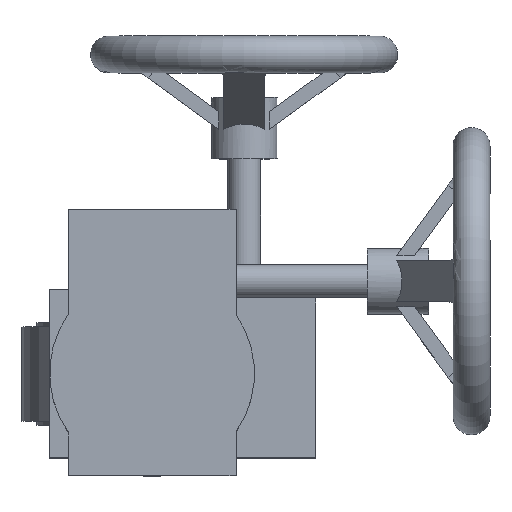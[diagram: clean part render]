
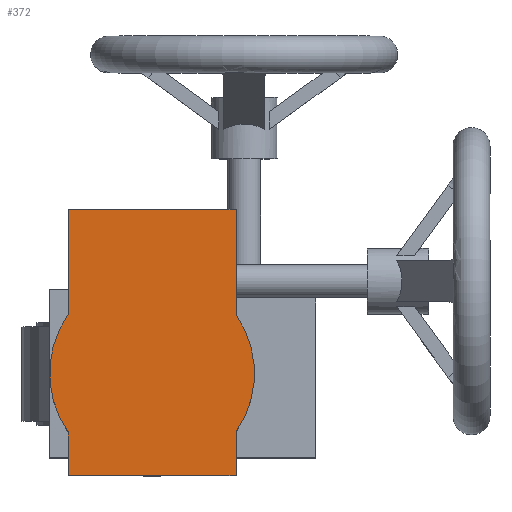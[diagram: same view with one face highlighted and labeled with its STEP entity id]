
A CAD part, top view. The second image highlights one B-rep face of the part: STEP entity #372.
In plain terms, the highlighted planar face has unit normal (0, 0, 1) as drawn and (0, 0, -1) by its records, which use the part's own axes.
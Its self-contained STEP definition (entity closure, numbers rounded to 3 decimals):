
#372 = ADVANCED_FACE( '', ( #934 ), #935, .F. );
#934 = FACE_OUTER_BOUND( '', #1894, .T. );
#935 = PLANE( '', #1895 );
#1894 = EDGE_LOOP( '', ( #4326, #4327, #4328, #4329, #4330, #4331, #4332, #4333 ) );
#1895 = AXIS2_PLACEMENT_3D( '', #4334, #4335, #4336 );
#4326 = ORIENTED_EDGE( '', *, *, #6484, .F. );
#4327 = ORIENTED_EDGE( '', *, *, #6485, .F. );
#4328 = ORIENTED_EDGE( '', *, *, #6486, .F. );
#4329 = ORIENTED_EDGE( '', *, *, #6487, .F. );
#4330 = ORIENTED_EDGE( '', *, *, #6488, .F. );
#4331 = ORIENTED_EDGE( '', *, *, #6489, .F. );
#4332 = ORIENTED_EDGE( '', *, *, #6490, .F. );
#4333 = ORIENTED_EDGE( '', *, *, #6491, .F. );
#4334 = CARTESIAN_POINT( '', ( 0., 0., 0. ) );
#4335 = DIRECTION( '', ( 0., 0., 1. ) );
#4336 = DIRECTION( '', ( 1., 0., 0. ) );
#6484 = EDGE_CURVE( '', #7539, #7540, #7541, .T. );
#6485 = EDGE_CURVE( '', #7542, #7539, #7543, .T. );
#6486 = EDGE_CURVE( '', #7544, #7542, #7545, .T. );
#6487 = EDGE_CURVE( '', #7546, #7544, #7547, .T. );
#6488 = EDGE_CURVE( '', #7548, #7546, #7549, .T. );
#6489 = EDGE_CURVE( '', #7550, #7548, #7551, .T. );
#6490 = EDGE_CURVE( '', #7552, #7550, #7553, .T. );
#6491 = EDGE_CURVE( '', #7540, #7552, #7554, .T. );
#7539 = VERTEX_POINT( '', #10348 );
#7540 = VERTEX_POINT( '', #10349 );
#7541 = CIRCLE( '', #10350, 50. );
#7542 = VERTEX_POINT( '', #10351 );
#7543 = LINE( '', #10352, #10353 );
#7544 = VERTEX_POINT( '', #10354 );
#7545 = LINE( '', #10355, #10356 );
#7546 = VERTEX_POINT( '', #10357 );
#7547 = LINE( '', #10358, #10359 );
#7548 = VERTEX_POINT( '', #10360 );
#7549 = CIRCLE( '', #10361, 50. );
#7550 = VERTEX_POINT( '', #10362 );
#7551 = LINE( '', #10363, #10364 );
#7552 = VERTEX_POINT( '', #10365 );
#7553 = LINE( '', #10366, #10367 );
#7554 = LINE( '', #10368, #10369 );
#10348 = CARTESIAN_POINT( '', ( -28.618, -41., 0. ) );
#10349 = CARTESIAN_POINT( '', ( 28.618, -41., 0. ) );
#10350 = AXIS2_PLACEMENT_3D( '', #15124, #15125, #15126 );
#10351 = CARTESIAN_POINT( '', ( -50., -41., 0. ) );
#10352 = CARTESIAN_POINT( '', ( -50., -41., 0. ) );
#10353 = VECTOR( '', #15127, 1000. );
#10354 = CARTESIAN_POINT( '', ( -50., 41., 0. ) );
#10355 = CARTESIAN_POINT( '', ( -50., 41., 0. ) );
#10356 = VECTOR( '', #15128, 1000. );
#10357 = CARTESIAN_POINT( '', ( -28.618, 41., 0. ) );
#10358 = CARTESIAN_POINT( '', ( -28.618, 41., 0. ) );
#10359 = VECTOR( '', #15129, 1000. );
#10360 = CARTESIAN_POINT( '', ( 28.618, 41., 0. ) );
#10361 = AXIS2_PLACEMENT_3D( '', #15130, #15131, #15132 );
#10362 = CARTESIAN_POINT( '', ( 80., 41., 0. ) );
#10363 = CARTESIAN_POINT( '', ( 80., 41., 0. ) );
#10364 = VECTOR( '', #15133, 1000. );
#10365 = CARTESIAN_POINT( '', ( 80., -41., 0. ) );
#10366 = CARTESIAN_POINT( '', ( 80., -41., 0. ) );
#10367 = VECTOR( '', #15134, 1000. );
#10368 = CARTESIAN_POINT( '', ( 28.618, -41., 0. ) );
#10369 = VECTOR( '', #15135, 1000. );
#15124 = CARTESIAN_POINT( '', ( 0., 0., 0. ) );
#15125 = DIRECTION( '', ( 0., 0., 1. ) );
#15126 = DIRECTION( '', ( 1., 0., 0. ) );
#15127 = DIRECTION( '', ( 1., 0., 0. ) );
#15128 = DIRECTION( '', ( 0., -1., 0. ) );
#15129 = DIRECTION( '', ( -1., 0., 0. ) );
#15130 = CARTESIAN_POINT( '', ( 0., 0., 0. ) );
#15131 = DIRECTION( '', ( 0., 0., 1. ) );
#15132 = DIRECTION( '', ( 1., 0., 0. ) );
#15133 = DIRECTION( '', ( -1., 0., 0. ) );
#15134 = DIRECTION( '', ( 0., 1., 0. ) );
#15135 = DIRECTION( '', ( 1., 0., 0. ) );
